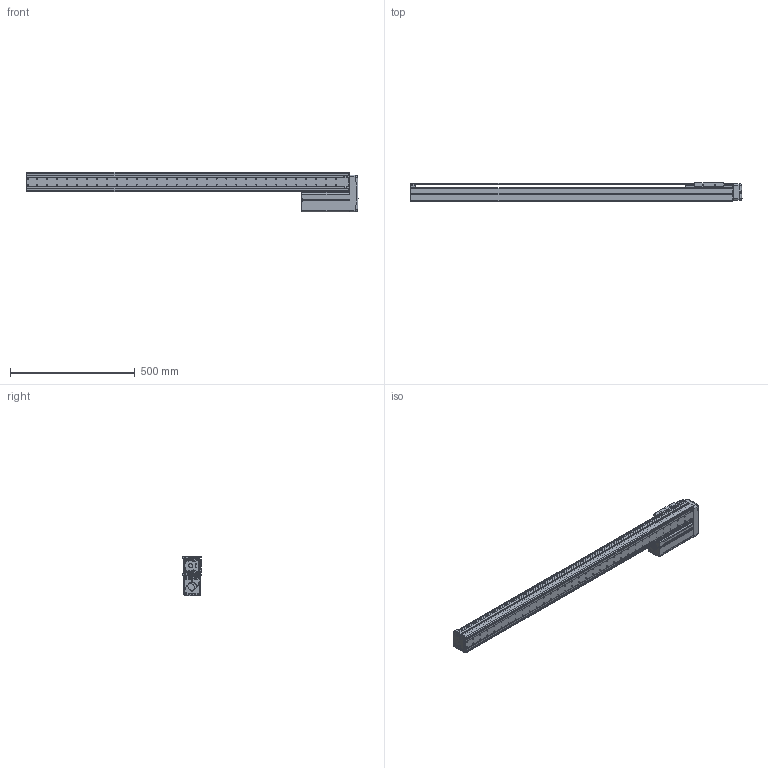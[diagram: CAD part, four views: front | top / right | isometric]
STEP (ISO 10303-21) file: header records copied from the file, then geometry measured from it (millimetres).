
FILE_DESCRIPTION((''),'2;1');
FILE_NAME('BE10E-UL-M_B-B0_IGS_PRT','2017-06-17T',(' '),(''),'PRO/ENGINEER BY PARAMETRIC TECHNOLOGY CORPORATION, 2015030','PRO/ENGINEER BY PARAMETRIC TECHNOLOGY CORPORATION, 2015030','');
FILE_SCHEMA(('CONFIG_CONTROL_DESIGN'));
Length unit declared in the file: millimetre
Products named in the file (1): BE10E-UL-M_B-B0_IGS_PRT
Bounding box: 1331.42 x 75 x 160 mm (x, y, z)
Volume: 1821715.6 mm3; surface area: 1235870.3 mm2
Topology: 2 solids, 141 shells, 1922 faces, 5205 edges, 3405 vertices
Faces by surface type: cylinder 961, plane 733, cone 81, torus 69, sphere 44, bspline 34
Entity records: 63289 total; most frequent: CARTESIAN_POINT 13625, DIRECTION 10770, ORIENTED_EDGE 9792, EDGE_CURVE 5165, AXIS2_PLACEMENT_3D 4069, VERTEX_POINT 3405, VECTOR 2632, LINE 2632
